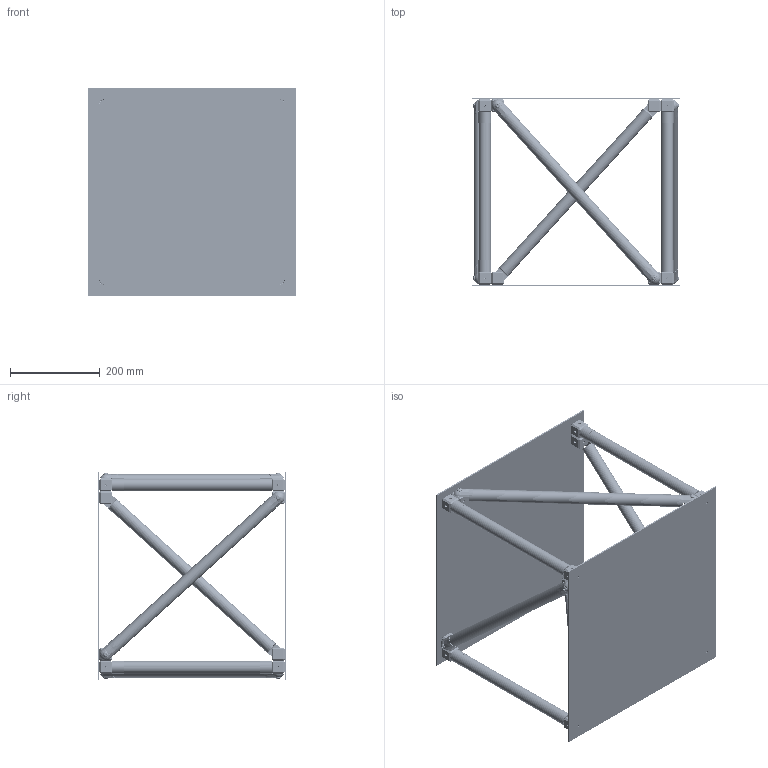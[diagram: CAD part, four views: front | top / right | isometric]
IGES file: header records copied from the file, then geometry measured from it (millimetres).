
Start section: SolidWorks IGES file using analytic representation for surfaces
Global section: file name: \\SERVER3\Design\_New Design Drive Folder List\_Design Vault\AAI\Modular Round Tube Connectors\Solidworks Models\Demonstrations\28. Criss-Cross Corner Box\Criss-Cross Corner Box Solid Models\Criss Cross Box Assembly.IGS; native system: SolidWorks 2013; preprocessor: SolidWorks 2013; author: tbraun; date: 130919.104615; units: inch
Bounding box: 463.55 x 419.1 x 463.55 mm (x, y, z)
Surface area: 1672832.8 mm2 (no closed solid volume)
Topology: 0 solids, 0 shells, 4500 faces, 64376 edges, 64328 vertices
Faces by surface type: revolution 3336, bspline 1164
